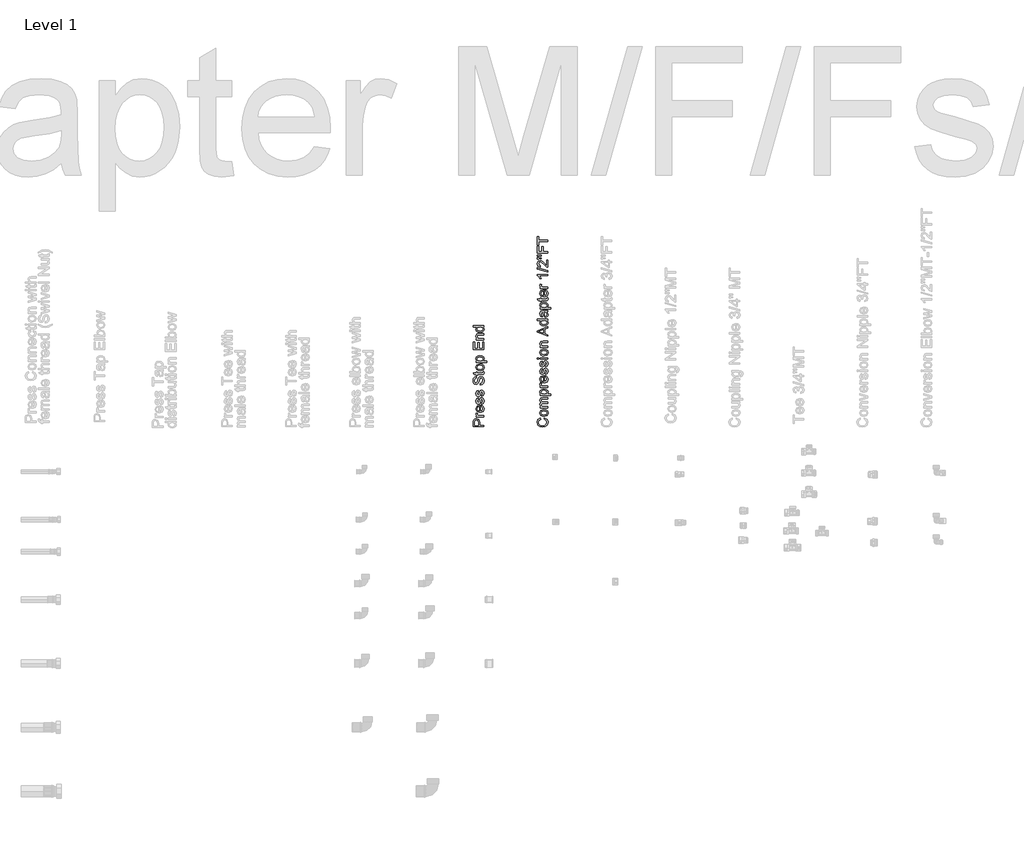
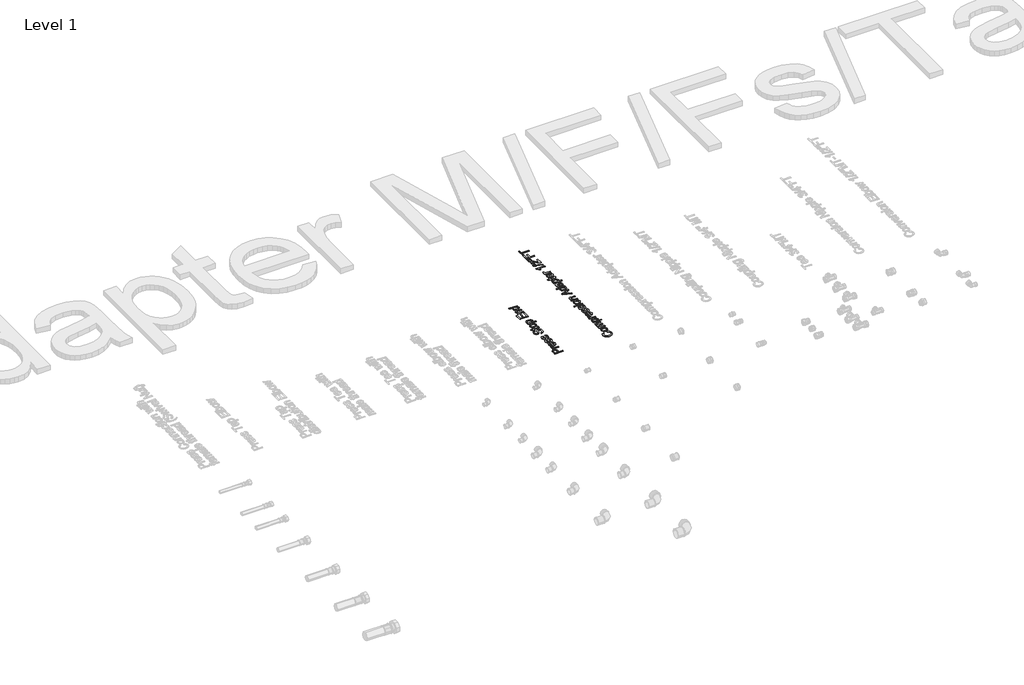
# One storey, part 53 of 57: 2 proxies.
"""IFC4 building model written with IfcOpenShell, lengths in millimetres."""

import ifcopenshell
import ifcopenshell.guid

model = None  # the IFC model being written
_history = None  # IfcOwnerHistory: only IFC2X3 demands one
_inside = {}  # id of a spatial element -> (the spatial element, [elements in it])
_under = {}  # id of a project, library or spatial element -> (it, [spatial elements below it])
_declared = {}  # id of a project -> (the project, [libraries it declares])
_typed = {}  # id of a type object -> (the type object, [elements of that type])
_made_of = {}  # id of a material, layer set ... -> (it, [elements and type objects made of it])


def new_model(schema):
    """Start an empty IFC model of exactly this schema.

    Asked for "IFC4X3", IfcOpenShell would pick the latest addendum, in which some entities
    have other attributes; the version numbers below select the first issue.
    IFC2X3 requires an IfcOwnerHistory on every rooted entity: one is made here for all.
    """
    global model, _history
    if schema == "IFC4X3":
        model = ifcopenshell.file(schema_version=(4, 3, 0, 0))
    else:
        model = ifcopenshell.file(schema=schema)
    _inside.clear()
    _under.clear()
    _declared.clear()
    _typed.clear()
    _made_of.clear()
    _history = None
    if model.schema == "IFC2X3":
        org = make("IfcOrganization", Name="unknown")
        user = make(
            "IfcPersonAndOrganization",
            ThePerson=make("IfcPerson", FamilyName="unknown"),
            TheOrganization=org,
        )
        app = make(
            "IfcApplication",
            ApplicationDeveloper=org,
            Version="unknown",
            ApplicationFullName="unknown",
            ApplicationIdentifier="unknown",
        )
        _history = make(
            "IfcOwnerHistory",
            OwningUser=user,
            OwningApplication=app,
            ChangeAction="ADDED",
            CreationDate=0,
        )
    return model


def make(cls, **values):
    """One entity of the class cls with the attributes given. An attribute that is None is left unset."""
    return model.create_entity(
        cls, **{name: value for name, value in values.items() if value is not None}
    )


def rooted(cls, **values):
    """An entity with a GlobalId (a new one), such as an element, a storey or a relation."""
    return make(cls, GlobalId=ifcopenshell.guid.new(), OwnerHistory=_history, **values)


def si_unit(unit_type, name, prefix=None):
    """IfcSIUnit, for example si_unit("LENGTHUNIT", "METRE", prefix="MILLI")."""
    return make("IfcSIUnit", UnitType=unit_type, Prefix=prefix, Name=name)


def assignment(units):
    """IfcUnitAssignment: the units of a project."""
    return None if units is None else make("IfcUnitAssignment", Units=units)


def point(xyz):
    """IfcCartesianPoint."""
    return None if xyz is None else make("IfcCartesianPoint", Coordinates=xyz)


def direction(xyz):
    """IfcDirection."""
    return None if xyz is None else make("IfcDirection", DirectionRatios=xyz)


def frame(location, z_axis=None, x_axis=None):
    """IfcAxis2Placement3D, a coordinate frame: its origin and axes. An axis left out is left unset."""
    return make(
        "IfcAxis2Placement3D",
        Location=point(location),
        Axis=direction(z_axis),
        RefDirection=direction(x_axis),
    )


def origin():
    """The frame at (0, 0, 0) with its axes left unset."""
    return frame((0.0, 0.0, 0.0))


def place(relative_to, where):
    """IfcLocalPlacement: puts the frame where relative to a parent placement (None: the world)."""
    return make(
        "IfcLocalPlacement", PlacementRelTo=relative_to, RelativePlacement=where
    )


def context(
    kind, dimensions, precision=None, world=None, true_north=None, identifier=None
):
    """IfcGeometricRepresentationContext, for example the 3D "Model" context."""
    return make(
        "IfcGeometricRepresentationContext",
        ContextIdentifier=identifier,
        ContextType=kind,
        CoordinateSpaceDimension=dimensions,
        Precision=precision,
        WorldCoordinateSystem=world,
        TrueNorth=true_north,
    )


def project(units=None, contexts=None):
    """IfcProject with its units and contexts."""
    return rooted(
        "IfcProject",
        Name="project",
        RepresentationContexts=contexts,
        UnitsInContext=assignment(units),
    )


def spatial(cls, under=None, at=None, **own):
    """A site, building, storey or space (cls), placed at a placement, below another one or the project."""
    s = rooted(cls, ObjectPlacement=at, **own)
    if under is not None:
        _under.setdefault(under.id(), (under, []))[1].append(s)
    return s


def polyline(points):
    """IfcPolyline through the points."""
    return make("IfcPolyline", Points=[point(p) for p in points])


def outline(outer, holes=None, kind="AREA"):
    """IfcArbitraryClosedProfileDef: a profile drawn as a closed curve; with holes, ...WithVoids."""
    if holes is None:
        return make("IfcArbitraryClosedProfileDef", ProfileType=kind, OuterCurve=outer)
    return make(
        "IfcArbitraryProfileDefWithVoids",
        ProfileType=kind,
        OuterCurve=outer,
        InnerCurves=holes,
    )


def extrude(swept, where, along, depth):
    """IfcExtrudedAreaSolid: the profile swept, set in the frame where, extruded along a direction by depth."""
    return make(
        "IfcExtrudedAreaSolid",
        SweptArea=swept,
        Position=where,
        ExtrudedDirection=direction(along),
        Depth=depth,
    )


def shape(context_of_items, identifier, shape_type, items):
    """IfcShapeRepresentation: the items that make up one representation, for example the "Body"."""
    return make(
        "IfcShapeRepresentation",
        ContextOfItems=context_of_items,
        RepresentationIdentifier=identifier,
        RepresentationType=shape_type,
        Items=items,
    )


def made_of(thing, what):
    """Note that an element or type object is made of a material, layer set ...; save() writes the relation."""
    if what is not None:
        _made_of.setdefault(what.id(), (what, []))[1].append(thing)
    return thing


def element(
    cls,
    number,
    at=None,
    inside=None,
    cuts=None,
    type_object=None,
    material=None,
    context=None,
    identifier="Body",
    shape_type=None,
    held_by="IfcProductDefinitionShape",
    body=None,
    shapes=None,
    **own,
):
    """One element of the class cls, such as IfcWall. Its Tag is "e" and its number.

    at: its placement. inside: the storey or other place that contains it. cuts: it is an
    opening in that element (IfcRelVoidsElement). A single representation is given by context,
    identifier, shape_type and body (its items); several are given by shapes. held_by: the class
    of the entity that holds the representations. save() writes the other relations.
    """
    e = rooted(cls, Tag="e%d" % number, ObjectPlacement=at, **own)
    if body is not None:
        shapes = [shape(context, identifier, shape_type, body)]
    if shapes is not None:
        e.Representation = make(held_by, Representations=shapes)
    if inside is not None:
        _inside.setdefault(inside.id(), (inside, []))[1].append(e)
    if cuts is not None:
        rooted(
            "IfcRelVoidsElement", RelatingBuildingElement=cuts, RelatedOpeningElement=e
        )
    if type_object is not None:
        _typed.setdefault(type_object.id(), (type_object, []))[1].append(e)
    return made_of(e, material)


def aggregate(whole, parts):
    """IfcRelAggregates: a whole, such as a stair, and the parts it consists of."""
    return rooted("IfcRelAggregates", RelatingObject=whole, RelatedObjects=parts)


def save(model, path):
    """Write the relations noted so far, then the file.

    IfcRelAggregates (storeys below a building ...), IfcRelContainedInSpatialStructure (elements
    in a storey), IfcRelDefinesByType, IfcRelAssociatesMaterial and IfcRelDeclares: one each for
    every whole, place, type object, material and project.
    """
    for whole, parts in _under.values():
        aggregate(whole, parts)
    for where, things in _inside.values():
        rooted(
            "IfcRelContainedInSpatialStructure",
            RelatedElements=things,
            RelatingStructure=where,
        )
    for kind, things in _typed.values():
        rooted("IfcRelDefinesByType", RelatedObjects=things, RelatingType=kind)
    for what, things in _made_of.values():
        rooted("IfcRelAssociatesMaterial", RelatedObjects=things, RelatingMaterial=what)
    for by, libraries in _declared.values():
        rooted("IfcRelDeclares", RelatingContext=by, RelatedDefinitions=libraries)
    model.write(path)


model = new_model("IFC4")

# Units and contexts
model_context = context("Model", 3, world=origin())
ifc_project = project(units=[si_unit("LENGTHUNIT", "METRE", prefix="MILLI")], contexts=[model_context])

# Site, building, storey
site = spatial("IfcSite", under=ifc_project)
building = spatial("IfcBuilding", under=site)
storey = spatial("IfcBuildingStorey", under=building, Name="Level 1", Elevation=27.3876384)

# Proxies
placement = place(None, origin())
element("IfcBuildingElementProxy", 1, Name="50mm Arial", ObjectType="50mm Arial", at=placement, inside=storey, context=model_context, shape_type="SweptSolid", body=[
    extrude(outline(polyline([(32119.1417262, 30406.8112945), (32068.9135711, 30406.8112945), (32068.9135711, 30425.4261235), (32069.3918177, 30432.9309162), (32071.7401311, 30439.0316259), (32076.5961734, 30442.9863574), (32083.4449099, 30444.4824108), (32094.2974288, 30440.4418402), (32098.7365382, 30425.8553191), (32098.7365382, 30413.0898139), (32119.1417262, 30413.0898139), (32119.1417262, 30406.8112945)]), holes=[polyline([(32092.4580188, 30413.0898139), (32092.4580188, 30426.2232011), (32090.152625, 30435.4693019), (32083.6656391, 30438.2038914), (32078.4662402, 30436.591342), (32075.6212861, 30432.3545677), (32075.1920905, 30426.0760483), (32075.1920905, 30413.0898139), (32092.4580188, 30413.0898139)])]), frame((0.0, 0.0, 27.3876384), z_axis=(0.0, 0.0, 1.0), x_axis=(1.0, 0.0, 0.0)), (0.0, 0.0, 1.0), 2.0),
    extrude(outline(polyline([(32119.1417262, 30452.33056), (32082.2554248, 30452.33056), (32082.2554248, 30457.8242645), (32087.7123411, 30457.8242645), (32082.6846205, 30461.7238137), (32081.4706099, 30465.6478883), (32083.4081217, 30471.9509331), (32089.0367162, 30469.8540057), (32087.7491293, 30465.4394218), (32088.9876653, 30461.8893606), (32092.4212306, 30459.6268863), (32099.754345, 30458.6090794), (32119.1417262, 30458.6090794), (32119.1417262, 30452.33056)])), frame((0.0, 0.0, 27.3876384), z_axis=(0.0, 0.0, 1.0), x_axis=(1.0, 0.0, 0.0)), (0.0, 0.0, 1.0), 2.0),
    extrude(outline(polyline([(32108.1543173, 30501.7003238), (32108.9391322, 30507.8562159), (32117.0447988, 30502.0988626), (32119.9265411, 30491.3751025), (32114.9540028, 30478.3398171), (32101.0051438, 30473.520563), (32086.5964323, 30478.388868), (32081.4706099, 30491.0194832), (32086.5841696, 30503.2883477), (32100.9683556, 30508.0524196), (32102.6606128, 30508.0156314), (32102.6606128, 30479.7990824), (32110.8153304, 30483.4104573), (32113.6480217, 30491.4977298), (32112.3359093, 30497.6536219), (32108.1543173, 30501.7003238)]), holes=[polyline([(32096.3820934, 30479.7990824), (32096.3820934, 30501.7739002), (32090.6921852, 30499.2600399), (32087.7491293, 30490.9949577), (32090.0974427, 30483.2633045), (32096.3820934, 30479.7990824)])]), frame((0.0, 0.0, 27.3876384), z_axis=(0.0, 0.0, 1.0), x_axis=(1.0, 0.0, 0.0)), (0.0, 0.0, 1.0), 2.0),
    extrude(outline(polyline([(32108.1543173, 30511.9764942), (32107.3695023, 30518.2550136), (32112.0293409, 30521.1612813), (32113.6480217, 30527.8199455), (32112.164231, 30534.2210922), (32108.6816148, 30536.3057568), (32105.8611862, 30534.2088294), (32104.0708271, 30527.7463691), (32100.9990124, 30518.2918018), (32097.412163, 30514.1653921), (32092.3476542, 30512.7613091), (32087.6694215, 30513.8894806), (32084.0948348, 30516.9674266), (32082.2370307, 30520.9589462), (32081.4706099, 30526.3606802), (32082.7030146, 30534.000363), (32086.038478, 30538.8564053), (32091.6732039, 30541.0146464), (32092.4580188, 30534.736127), (32088.9937967, 30532.3755508), (32087.7491293, 30526.8511895), (32088.9386144, 30520.8424503), (32091.7099921, 30519.0398285), (32093.5371393, 30519.7878552), (32094.9228282, 30522.1300373), (32096.2594661, 30527.5379026), (32099.2147848, 30536.7533466), (32102.5625109, 30541.0330404), (32108.0194272, 30542.5842762), (32114.0281664, 30540.7632603), (32118.3875681, 30535.5086792), (32119.9265411, 30527.7341063), (32116.9589597, 30516.7834856), (32108.1543173, 30511.9764942)])), frame((0.0, 0.0, 27.3876384), z_axis=(0.0, 0.0, 1.0), x_axis=(1.0, 0.0, 0.0)), (0.0, 0.0, 1.0), 2.0),
    extrude(outline(polyline([(32108.1543173, 30547.2931657), (32107.3695023, 30553.5716851), (32112.0293409, 30556.4779529), (32113.6480217, 30563.136617), (32112.164231, 30569.5377637), (32108.6816148, 30571.6224283), (32105.8611862, 30569.525501), (32104.0708271, 30563.0630406), (32100.9990124, 30553.6084733), (32097.412163, 30549.4820636), (32092.3476542, 30548.0779807), (32087.6694215, 30549.2061521), (32084.0948348, 30552.2840981), (32082.2370307, 30556.2756178), (32081.4706099, 30561.6773517), (32082.7030146, 30569.3170345), (32086.038478, 30574.1730768), (32091.6732039, 30576.3313179), (32092.4580188, 30570.0527985), (32088.9937967, 30567.6922224), (32087.7491293, 30562.1678611), (32088.9386144, 30556.1591218), (32091.7099921, 30554.3565), (32093.5371393, 30555.1045268), (32094.9228282, 30557.4467088), (32096.2594661, 30562.8545741), (32099.2147848, 30572.0700181), (32102.5625109, 30576.349712), (32108.0194272, 30577.9009477), (32114.0281664, 30576.0799319), (32118.3875681, 30570.8253507), (32119.9265411, 30563.0507779), (32116.9589597, 30552.1001571), (32108.1543173, 30547.2931657)])), frame((0.0, 0.0, 27.3876384), z_axis=(0.0, 0.0, 1.0), x_axis=(1.0, 0.0, 0.0)), (0.0, 0.0, 1.0), 2.0),
    extrude(outline(polyline([(32101.8757979, 30603.0150253), (32101.8757979, 30609.2935447), (32108.1604486, 30611.3168956), (32112.1335742, 30616.2587771), (32113.6480217, 30623.7880953), (32112.5014562, 30630.3486575), (32109.3499337, 30634.5854318), (32105.1376849, 30635.977252), (32101.2197416, 30634.9349197), (32098.3686562, 30630.6674886), (32095.9712918, 30621.525621), (32092.8749517, 30611.6847776), (32088.2028504, 30606.3443573), (32081.9611192, 30604.5846551), (32074.8548653, 30606.7612903), (32069.8394075, 30613.1195174), (32068.1287562, 30622.4269319), (32069.9191152, 30632.3597458), (32075.1798278, 30638.9816217), (32083.0402397, 30641.4709565), (32083.0402397, 30635.1924371), (32076.5900421, 30631.6362445), (32074.4072756, 30622.6721865), (32076.5655166, 30613.6836031), (32081.7771782, 30610.8631745), (32086.1304485, 30612.862), (32089.6375902, 30623.1136449), (32092.7891126, 30634.2236812), (32097.8781469, 30640.2998655), (32104.9782694, 30642.2557714), (32112.4891934, 30640.0055599), (32117.9706352, 30633.5308368), (32119.9265411, 30624.0333499), (32117.817351, 30612.8190804), (32111.4652552, 30605.7250893), (32101.8757979, 30603.0150253)])), frame((0.0, 0.0, 27.3876384), z_axis=(0.0, 0.0, 1.0), x_axis=(1.0, 0.0, 0.0)), (0.0, 0.0, 1.0), 2.0),
    extrude(outline(polyline([(32113.9055391, 30664.2305893), (32119.3256672, 30665.0154042), (32119.9265411, 30660.3187774), (32118.8842088, 30655.0580649), (32116.1496193, 30652.43384), (32109.0249713, 30651.6735505), (32088.5339442, 30651.6735505), (32088.5339442, 30646.964661), (32082.2554248, 30646.964661), (32082.2554248, 30651.6735505), (32073.2913668, 30651.6735505), (32069.6002842, 30657.9520699), (32082.2554248, 30657.9520699), (32082.2554248, 30664.2305893), (32088.5339442, 30664.2305893), (32088.5339442, 30657.9520699), (32108.8410303, 30657.9520699), (32112.0783919, 30658.2831637), (32113.6480217, 30661.4959998), (32113.9055391, 30664.2305893)])), frame((0.0, 0.0, 27.3876384), z_axis=(0.0, 0.0, 1.0), x_axis=(1.0, 0.0, 0.0)), (0.0, 0.0, 1.0), 2.0),
    extrude(outline(polyline([(32100.6985755, 30668.9394788), (32091.8050283, 30670.2975765), (32085.5541, 30674.3718696), (32081.4706099, 30685.4328549), (32086.4431482, 30697.2970493), (32100.1835407, 30701.9017056), (32111.3548906, 30699.8660919), (32117.6763296, 30693.9370604), (32119.9265411, 30685.4328549), (32114.9723969, 30673.4950842), (32100.6985755, 30668.9394788)]), holes=[polyline([(32100.6863128, 30675.2179982), (32110.4167915, 30678.124266), (32113.6480217, 30685.4328549), (32110.3983974, 30692.7169184), (32100.490109, 30695.6231862), (32090.9803594, 30692.6985243), (32087.7491293, 30685.4328549), (32090.9680967, 30678.124266), (32100.6863128, 30675.2179982)])]), frame((0.0, 0.0, 27.3876384), z_axis=(0.0, 0.0, 1.0), x_axis=(1.0, 0.0, 0.0)), (0.0, 0.0, 1.0), 2.0),
    extrude(outline(polyline([(32133.2683948, 30708.9650399), (32082.2554248, 30708.9650399), (32082.2554248, 30715.2435593), (32088.4113168, 30715.2435593), (32083.2057866, 30719.5845668), (32081.4706099, 30725.4461533), (32083.898631, 30733.4046671), (32090.7412362, 30738.604066), (32100.4165326, 30740.3576368), (32110.5884698, 30738.3772054), (32117.516914, 30732.6259835), (32119.9265411, 30724.6858638), (32118.3139917, 30719.2228162), (32114.2366329, 30715.2435593), (32133.2683948, 30715.2435593), (32133.2683948, 30708.9650399)]), holes=[polyline([(32100.9928811, 30715.2435593), (32110.557813, 30717.9597547), (32113.6480217, 30724.5509737), (32110.4474484, 30731.2770829), (32100.5268972, 30734.0791174), (32090.9374399, 30731.3445279), (32087.7491293, 30724.8084911), (32091.139775, 30718.1436957), (32100.9928811, 30715.2435593)])]), frame((0.0, 0.0, 27.3876384), z_axis=(0.0, 0.0, 1.0), x_axis=(1.0, 0.0, 0.0)), (0.0, 0.0, 1.0), 2.0),
    extrude(outline(polyline([(32119.1417262, 30767.8261591), (32068.9135711, 30767.8261591), (32068.9135711, 30803.9276456), (32075.1920905, 30803.9276456), (32075.1920905, 30774.1046785), (32090.103574, 30774.1046785), (32090.103574, 30802.3580157), (32096.3820934, 30802.3580157), (32096.3820934, 30774.1046785), (32112.8632068, 30774.1046785), (32112.8632068, 30804.7124605), (32119.1417262, 30804.7124605), (32119.1417262, 30767.8261591)])), frame((0.0, 0.0, 27.3876384), z_axis=(0.0, 0.0, 1.0), x_axis=(1.0, 0.0, 0.0)), (0.0, 0.0, 1.0), 2.0),
    extrude(outline(polyline([(32119.1417262, 30813.3454246), (32082.2554248, 30813.3454246), (32082.2554248, 30819.623944), (32087.4057727, 30819.623944), (32082.9544006, 30824.4248041), (32081.4706099, 30830.9792349), (32082.6662264, 30836.9082664), (32085.805486, 30840.9549684), (32090.4224051, 30842.8372979), (32096.492458, 30843.1683917), (32119.1417262, 30843.1683917), (32119.1417262, 30836.8898723), (32097.3385866, 30836.8898723), (32091.7835685, 30836.1663711), (32088.8466439, 30833.6095912), (32087.7491293, 30829.2992405), (32090.2139386, 30822.4872922), (32099.570404, 30819.623944), (32119.1417262, 30819.623944), (32119.1417262, 30813.3454246)])), frame((0.0, 0.0, 27.3876384), z_axis=(0.0, 0.0, 1.0), x_axis=(1.0, 0.0, 0.0)), (0.0, 0.0, 1.0), 2.0),
    extrude(outline(polyline([(32119.1417262, 30874.5609886), (32113.2188261, 30874.5609886), (32118.2496123, 30870.4069878), (32119.9265411, 30864.664963), (32117.4985199, 30856.8903901), (32110.7233599, 30851.3966857), (32100.7353637, 30849.4469111), (32090.7412362, 30851.2434015), (32083.8618428, 30856.6267414), (32081.4706099, 30864.6404375), (32083.1812611, 30870.4284476), (32087.6265019, 30874.5609886), (32068.9135711, 30874.5609886), (32068.9135711, 30880.839508), (32119.1417262, 30880.839508), (32119.1417262, 30874.5609886)]), holes=[polyline([(32100.7108382, 30855.7254305), (32110.4290543, 30858.5581219), (32113.6480217, 30865.2413114), (32110.5762071, 30871.8447932), (32101.1890848, 30874.5609886), (32090.9987535, 30871.7957423), (32087.7491293, 30864.983794), (32090.8699948, 30858.3741809), (32100.7108382, 30855.7254305)])]), frame((0.0, 0.0, 27.3876384), z_axis=(0.0, 0.0, 1.0), x_axis=(1.0, 0.0, 0.0)), (0.0, 0.0, 1.0), 2.0),
])
element("IfcBuildingElementProxy", 2, Name="50mm Arial", ObjectType="50mm Arial", at=placement, inside=storey, context=model_context, shape_type="SweptSolid", body=[
    extrude(outline(polyline([(32401.2871867, 30442.127966), (32402.9058675, 30448.4064854), (32415.5671395, 30440.9630064), (32419.9265411, 30427.8173564), (32416.6278659, 30414.7514142), (32407.0751967, 30407.087206), (32393.6475039, 30404.4568497), (32379.9990819, 30407.4305625), (32371.1515199, 30415.8857171), (32368.1287562, 30427.9522465), (32372.0405681, 30440.5276794), (32383.0525025, 30447.6216705), (32384.5485559, 30441.3431511), (32376.8291654, 30436.1928032), (32374.4072756, 30427.7069918), (32377.0928141, 30417.8845426), (32384.3033012, 30412.3356558), (32393.6352412, 30410.7353691), (32404.4509718, 30412.6299614), (32411.361022, 30418.5283361), (32413.6480217, 30427.191957), (32410.5332875, 30436.7998085), (32401.2871867, 30442.127966)])), frame((0.0, 0.0, 27.3876384), z_axis=(0.0, 0.0, 1.0), x_axis=(1.0, 0.0, 0.0)), (0.0, 0.0, 1.0), 2.0),
    extrude(outline(polyline([(32400.6985755, 30454.6850048), (32391.8050283, 30456.0431025), (32385.5541, 30460.1173956), (32381.4706099, 30471.1783809), (32386.4431482, 30483.0425753), (32400.1835407, 30487.6472316), (32411.3548906, 30485.6116179), (32417.6763296, 30479.6825864), (32419.9265411, 30471.1783809), (32414.9723969, 30459.2406102), (32400.6985755, 30454.6850048)]), holes=[polyline([(32400.6863128, 30460.9635242), (32410.4167915, 30463.869792), (32413.6480217, 30471.1783809), (32410.3983974, 30478.4624444), (32400.490109, 30481.3687122), (32390.9803594, 30478.4440503), (32387.7491293, 30471.1783809), (32390.9680967, 30463.869792), (32400.6863128, 30460.9635242)])]), frame((0.0, 0.0, 27.3876384), z_axis=(0.0, 0.0, 1.0), x_axis=(1.0, 0.0, 0.0)), (0.0, 0.0, 1.0), 2.0),
    extrude(outline(polyline([(32419.1417262, 30494.7105659), (32382.2554248, 30494.7105659), (32382.2554248, 30500.9890853), (32388.3254777, 30500.9890853), (32383.3529394, 30505.3055674), (32381.4706099, 30511.4491967), (32383.3897276, 30517.7399788), (32388.7669361, 30521.1980695), (32383.2946914, 30526.0970314), (32381.4706099, 30532.2835803), (32384.5056363, 30540.4934802), (32393.8559704, 30543.3690911), (32419.1417262, 30543.3690911), (32419.1417262, 30537.0905717), (32396.5537717, 30537.0905717), (32391.3114532, 30536.5080919), (32388.7301479, 30534.3989018), (32387.7491293, 30530.8120524), (32390.2629896, 30524.6377662), (32398.3196053, 30522.1790882), (32419.1417262, 30522.1790882), (32419.1417262, 30515.9005688), (32395.8547959, 30515.9005688), (32389.7724802, 30514.4474349), (32387.7491293, 30509.6833631), (32389.0980299, 30505.0357872), (32393.04663, 30501.9455785), (32400.53916, 30500.9890853), (32419.1417262, 30500.9890853), (32419.1417262, 30494.7105659)])), frame((0.0, 0.0, 27.3876384), z_axis=(0.0, 0.0, 1.0), x_axis=(1.0, 0.0, 0.0)), (0.0, 0.0, 1.0), 2.0),
    extrude(outline(polyline([(32433.2683948, 30552.7868702), (32382.2554248, 30552.7868702), (32382.2554248, 30559.0653896), (32388.4113168, 30559.0653896), (32383.2057866, 30563.4063971), (32381.4706099, 30569.2679836), (32383.898631, 30577.2264974), (32390.7412362, 30582.4258963), (32400.4165326, 30584.1794671), (32410.5884698, 30582.1990357), (32417.516914, 30576.4478139), (32419.9265411, 30568.5076941), (32418.3139917, 30563.0446465), (32414.2366329, 30559.0653896), (32433.2683948, 30559.0653896), (32433.2683948, 30552.7868702)]), holes=[polyline([(32400.9928811, 30559.0653896), (32410.557813, 30561.781585), (32413.6480217, 30568.3728041), (32410.4474484, 30575.0989132), (32400.5268972, 30577.9009477), (32390.9374399, 30575.1663582), (32387.7491293, 30568.6303215), (32391.139775, 30561.965526), (32400.9928811, 30559.0653896)])]), frame((0.0, 0.0, 27.3876384), z_axis=(0.0, 0.0, 1.0), x_axis=(1.0, 0.0, 0.0)), (0.0, 0.0, 1.0), 2.0),
    extrude(outline(polyline([(32419.1417262, 30591.2428014), (32382.2554248, 30591.2428014), (32382.2554248, 30596.7365059), (32387.7123411, 30596.7365059), (32382.6846205, 30600.636055), (32381.4706099, 30604.5601297), (32383.4081217, 30610.8631745), (32389.0367162, 30608.7662471), (32387.7491293, 30604.3516632), (32388.9876653, 30600.8016019), (32392.4212306, 30598.5391277), (32399.754345, 30597.5213208), (32419.1417262, 30597.5213208), (32419.1417262, 30591.2428014)])), frame((0.0, 0.0, 27.3876384), z_axis=(0.0, 0.0, 1.0), x_axis=(1.0, 0.0, 0.0)), (0.0, 0.0, 1.0), 2.0),
    extrude(outline(polyline([(32408.1543173, 30640.6125652), (32408.9391322, 30646.7684572), (32417.0447988, 30641.011104), (32419.9265411, 30630.2873438), (32414.9540028, 30617.2520585), (32401.0051438, 30612.4328043), (32386.5964323, 30617.3011094), (32381.4706099, 30629.9317246), (32386.5841696, 30642.2005891), (32400.9683556, 30646.964661), (32402.6606128, 30646.9278728), (32402.6606128, 30618.7113237), (32410.8153304, 30622.3226987), (32413.6480217, 30630.4099712), (32412.3359093, 30636.5658632), (32408.1543173, 30640.6125652)]), holes=[polyline([(32396.3820934, 30618.7113237), (32396.3820934, 30640.6861416), (32390.6921852, 30638.1722813), (32387.7491293, 30629.9071991), (32390.0974427, 30622.1755459), (32396.3820934, 30618.7113237)])]), frame((0.0, 0.0, 27.3876384), z_axis=(0.0, 0.0, 1.0), x_axis=(1.0, 0.0, 0.0)), (0.0, 0.0, 1.0), 2.0),
    extrude(outline(polyline([(32408.1543173, 30650.8887356), (32407.3695023, 30657.167255), (32412.0293409, 30660.0735227), (32413.6480217, 30666.7321868), (32412.164231, 30673.1333336), (32408.6816148, 30675.2179982), (32405.8611862, 30673.1210708), (32404.0708271, 30666.6586104), (32400.9990124, 30657.2040432), (32397.412163, 30653.0776334), (32392.3476542, 30651.6735505), (32387.6694215, 30652.801722), (32384.0948348, 30655.879668), (32382.2370307, 30659.8711876), (32381.4706099, 30665.2729216), (32382.7030146, 30672.9126044), (32386.038478, 30677.7686467), (32391.6732039, 30679.9268877), (32392.4580188, 30673.6483683), (32388.9937967, 30671.2877922), (32387.7491293, 30665.7634309), (32388.9386144, 30659.7546917), (32391.7099921, 30657.9520699), (32393.5371393, 30658.7000966), (32394.9228282, 30661.0422786), (32396.2594661, 30666.450144), (32399.2147848, 30675.665588), (32402.5625109, 30679.9452818), (32408.0194272, 30681.4965176), (32414.0281664, 30679.6755017), (32418.3875681, 30674.4209205), (32419.9265411, 30666.6463477), (32416.9589597, 30655.695727), (32408.1543173, 30650.8887356)])), frame((0.0, 0.0, 27.3876384), z_axis=(0.0, 0.0, 1.0), x_axis=(1.0, 0.0, 0.0)), (0.0, 0.0, 1.0), 2.0),
    extrude(outline(polyline([(32408.1543173, 30686.2054071), (32407.3695023, 30692.4839265), (32412.0293409, 30695.3901943), (32413.6480217, 30702.0488584), (32412.164231, 30708.4500051), (32408.6816148, 30710.5346697), (32405.8611862, 30708.4377424), (32404.0708271, 30701.975282), (32400.9990124, 30692.5207147), (32397.412163, 30688.394305), (32392.3476542, 30686.990222), (32387.6694215, 30688.1183935), (32384.0948348, 30691.1963395), (32382.2370307, 30695.1878592), (32381.4706099, 30700.5895931), (32382.7030146, 30708.2292759), (32386.038478, 30713.0853182), (32391.6732039, 30715.2435593), (32392.4580188, 30708.9650399), (32388.9937967, 30706.6044637), (32387.7491293, 30701.0801025), (32388.9386144, 30695.0713632), (32391.7099921, 30693.2687414), (32393.5371393, 30694.0167681), (32394.9228282, 30696.3589502), (32396.2594661, 30701.7668155), (32399.2147848, 30710.9822595), (32402.5625109, 30715.2619534), (32408.0194272, 30716.8131891), (32414.0281664, 30714.9921732), (32418.3875681, 30709.7375921), (32419.9265411, 30701.9630192), (32416.9589597, 30691.0123985), (32408.1543173, 30686.2054071)])), frame((0.0, 0.0, 27.3876384), z_axis=(0.0, 0.0, 1.0), x_axis=(1.0, 0.0, 0.0)), (0.0, 0.0, 1.0), 2.0),
    extrude(outline(polyline([(32375.1920905, 30723.8765234), (32368.9135711, 30723.8765234), (32368.9135711, 30730.1550428), (32375.1920905, 30730.1550428), (32375.1920905, 30723.8765234)])), frame((0.0, 0.0, 27.3876384), z_axis=(0.0, 0.0, 1.0), x_axis=(1.0, 0.0, 0.0)), (0.0, 0.0, 1.0), 2.0),
    extrude(outline(polyline([(32419.1417262, 30723.8765234), (32382.2554248, 30723.8765234), (32382.2554248, 30730.1550428), (32419.1417262, 30730.1550428), (32419.1417262, 30723.8765234)])), frame((0.0, 0.0, 27.3876384), z_axis=(0.0, 0.0, 1.0), x_axis=(1.0, 0.0, 0.0)), (0.0, 0.0, 1.0), 2.0),
    extrude(outline(polyline([(32400.6985755, 30738.003192), (32391.8050283, 30739.3612897), (32385.5541, 30743.4355828), (32381.4706099, 30754.4965682), (32386.4431482, 30766.3607625), (32400.1835407, 30770.9654188), (32411.3548906, 30768.9298051), (32417.6763296, 30763.0007736), (32419.9265411, 30754.4965682), (32414.9723969, 30742.5587974), (32400.6985755, 30738.003192)]), holes=[polyline([(32400.6863128, 30744.2817114), (32410.4167915, 30747.1879792), (32413.6480217, 30754.4965682), (32410.3983974, 30761.7806317), (32400.490109, 30764.6868994), (32390.9803594, 30761.7622376), (32387.7491293, 30754.4965682), (32390.9680967, 30747.1879792), (32400.6863128, 30744.2817114)])]), frame((0.0, 0.0, 27.3876384), z_axis=(0.0, 0.0, 1.0), x_axis=(1.0, 0.0, 0.0)), (0.0, 0.0, 1.0), 2.0),
    extrude(outline(polyline([(32419.1417262, 30778.0287531), (32382.2554248, 30778.0287531), (32382.2554248, 30784.3072725), (32387.4057727, 30784.3072725), (32382.9544006, 30789.1081325), (32381.4706099, 30795.6625634), (32382.6662264, 30801.5915949), (32385.805486, 30805.6382968), (32390.4224051, 30807.5206264), (32396.492458, 30807.8517202), (32419.1417262, 30807.8517202), (32419.1417262, 30801.5732008), (32397.3385866, 30801.5732008), (32391.7835685, 30800.8496995), (32388.8466439, 30798.2929197), (32387.7491293, 30793.982569), (32390.2139386, 30787.1706207), (32399.570404, 30784.3072725), (32419.1417262, 30784.3072725), (32419.1417262, 30778.0287531)])), frame((0.0, 0.0, 27.3876384), z_axis=(0.0, 0.0, 1.0), x_axis=(1.0, 0.0, 0.0)), (0.0, 0.0, 1.0), 2.0),
    extrude(outline(polyline([(32419.1417262, 30831.0405486), (32368.9135711, 30851.0901174), (32368.9135711, 30856.436669), (32419.1417262, 30876.4862378), (32419.1417262, 30869.8520991), (32403.4454277, 30864.1008772), (32403.4454277, 30843.4136464), (32419.1417262, 30837.6746873), (32419.1417262, 30831.0405486)]), holes=[polyline([(32397.1669083, 30845.7190402), (32397.1669083, 30861.8077461), (32384.818336, 30857.2827976), (32375.1920905, 30853.7633932), (32383.7392155, 30850.6363962), (32397.1669083, 30845.7190402)])]), frame((0.0, 0.0, 27.3876384), z_axis=(0.0, 0.0, 1.0), x_axis=(1.0, 0.0, 0.0)), (0.0, 0.0, 1.0), 2.0),
    extrude(outline(polyline([(32419.1417262, 30905.1687706), (32413.2188261, 30905.1687706), (32418.2496123, 30901.0147698), (32419.9265411, 30895.272745), (32417.4985199, 30887.4981721), (32410.7233599, 30882.0044677), (32400.7353637, 30880.0546931), (32390.7412362, 30881.8511835), (32383.8618428, 30887.2345234), (32381.4706099, 30895.2482195), (32383.1812611, 30901.0362296), (32387.6265019, 30905.1687706), (32368.9135711, 30905.1687706), (32368.9135711, 30911.44729), (32419.1417262, 30911.44729), (32419.1417262, 30905.1687706)]), holes=[polyline([(32400.7108382, 30886.3332125), (32410.4290543, 30889.1659039), (32413.6480217, 30895.8490934), (32410.5762071, 30902.4525752), (32401.1890848, 30905.1687706), (32390.9987535, 30902.4035243), (32387.7491293, 30895.591576), (32390.8699948, 30888.9819629), (32400.7108382, 30886.3332125)])]), frame((0.0, 0.0, 27.3876384), z_axis=(0.0, 0.0, 1.0), x_axis=(1.0, 0.0, 0.0)), (0.0, 0.0, 1.0), 2.0),
    extrude(outline(polyline([(32414.4328366, 30944.4095168), (32418.6880051, 30938.3210698), (32419.9265411, 30931.5949606), (32416.9466969, 30922.4776185), (32409.3315396, 30919.2954393), (32404.3651327, 30920.4971871), (32400.7598892, 30923.6548409), (32398.69975, 30928.0510307), (32397.7555195, 30933.4834215), (32395.5972785, 30944.3727286), (32389.5640138, 30942.6804714), (32387.7491293, 30935.7397644), (32388.9570085, 30929.3876687), (32393.2428337, 30926.3587736), (32392.4580188, 30920.0802542), (32386.3266522, 30922.7964496), (32382.7336714, 30928.2656286), (32381.4706099, 30936.5491048), (32382.5865186, 30944.1581308), (32385.3885531, 30948.4562187), (32389.6498529, 30950.3814678), (32395.1435574, 30950.6880362), (32402.9549184, 30950.6880362), (32413.8626195, 30951.0068672), (32419.1417262, 30952.257666), (32419.1417262, 30945.9791466), (32414.4328366, 30944.4095168)]), holes=[polyline([(32401.8757979, 30944.4095168), (32403.801047, 30934.2804992), (32404.8188538, 30928.8787652), (32406.4743228, 30926.43235), (32408.8900812, 30925.5739586), (32412.2868583, 30927.4440255), (32413.6480217, 30932.9315985), (32412.1458369, 30939.2836943), (32408.5099365, 30943.3794472), (32403.6538942, 30944.3727286), (32401.8757979, 30944.4095168)])]), frame((0.0, 0.0, 27.3876384), z_axis=(0.0, 0.0, 1.0), x_axis=(1.0, 0.0, 0.0)), (0.0, 0.0, 1.0), 2.0),
    extrude(outline(polyline([(32433.2683948, 30959.3210003), (32382.2554248, 30959.3210003), (32382.2554248, 30965.5995197), (32388.4113168, 30965.5995197), (32383.2057866, 30969.9405273), (32381.4706099, 30975.8021137), (32383.898631, 30983.7606275), (32390.7412362, 30988.9600264), (32400.4165326, 30990.7135973), (32410.5884698, 30988.7331658), (32417.516914, 30982.981944), (32419.9265411, 30975.0418243), (32418.3139917, 30969.5787766), (32414.2366329, 30965.5995197), (32433.2683948, 30965.5995197), (32433.2683948, 30959.3210003)]), holes=[polyline([(32400.9928811, 30965.5995197), (32410.557813, 30968.3157151), (32413.6480217, 30974.9069342), (32410.4474484, 30981.6330433), (32400.5268972, 30984.4350779), (32390.9374399, 30981.7004884), (32387.7491293, 30975.1644516), (32391.139775, 30968.4996561), (32400.9928811, 30965.5995197)])]), frame((0.0, 0.0, 27.3876384), z_axis=(0.0, 0.0, 1.0), x_axis=(1.0, 0.0, 0.0)), (0.0, 0.0, 1.0), 2.0),
    extrude(outline(polyline([(32413.9055391, 31011.1187853), (32419.3256672, 31011.9036002), (32419.9265411, 31007.2069734), (32418.8842088, 31001.9462608), (32416.1496193, 30999.3220359), (32409.0249713, 30998.5617465), (32388.5339442, 30998.5617465), (32388.5339442, 30993.8528569), (32382.2554248, 30993.8528569), (32382.2554248, 30998.5617465), (32373.2913668, 30998.5617465), (32369.6002842, 31004.8402659), (32382.2554248, 31004.8402659), (32382.2554248, 31011.1187853), (32388.5339442, 31011.1187853), (32388.5339442, 31004.8402659), (32408.8410303, 31004.8402659), (32412.0783919, 31005.1713597), (32413.6480217, 31008.3841958), (32413.9055391, 31011.1187853)])), frame((0.0, 0.0, 27.3876384), z_axis=(0.0, 0.0, 1.0), x_axis=(1.0, 0.0, 0.0)), (0.0, 0.0, 1.0), 2.0),
    extrude(outline(polyline([(32408.1543173, 31043.2226207), (32408.9391322, 31049.3785128), (32417.0447988, 31043.6211595), (32419.9265411, 31032.8973994), (32414.9540028, 31019.862114), (32401.0051438, 31015.0428599), (32386.5964323, 31019.9111649), (32381.4706099, 31032.5417801), (32386.5841696, 31044.8106446), (32400.9683556, 31049.5747165), (32402.6606128, 31049.5379283), (32402.6606128, 31021.3213793), (32410.8153304, 31024.9327542), (32413.6480217, 31033.0200267), (32412.3359093, 31039.1759188), (32408.1543173, 31043.2226207)]), holes=[polyline([(32396.3820934, 31021.3213793), (32396.3820934, 31043.2961971), (32390.6921852, 31040.7823368), (32387.7491293, 31032.5172546), (32390.0974427, 31024.7856014), (32396.3820934, 31021.3213793)])]), frame((0.0, 0.0, 27.3876384), z_axis=(0.0, 0.0, 1.0), x_axis=(1.0, 0.0, 0.0)), (0.0, 0.0, 1.0), 2.0),
    extrude(outline(polyline([(32419.1417262, 31055.8532359), (32382.2554248, 31055.8532359), (32382.2554248, 31061.3469403), (32387.7123411, 31061.3469403), (32382.6846205, 31065.2464895), (32381.4706099, 31069.1705641), (32383.4081217, 31075.4736089), (32389.0367162, 31073.3766816), (32387.7491293, 31068.9620976), (32388.9876653, 31065.4120364), (32392.4212306, 31063.1495621), (32399.754345, 31062.1317553), (32419.1417262, 31062.1317553), (32419.1417262, 31055.8532359)])), frame((0.0, 0.0, 27.3876384), z_axis=(0.0, 0.0, 1.0), x_axis=(1.0, 0.0, 0.0)), (0.0, 0.0, 1.0), 2.0),
    extrude(outline(polyline([(32419.1417262, 31120.9928745), (32419.1417262, 31114.7143551), (32379.9990819, 31114.7143551), (32384.2358562, 31108.7669295), (32387.4057727, 31102.1573163), (32381.4706099, 31102.1573163), (32375.5967607, 31111.3604976), (32368.9135711, 31116.9461725), (32368.9135711, 31120.9928745), (32419.1417262, 31120.9928745)])), frame((0.0, 0.0, 27.3876384), z_axis=(0.0, 0.0, 1.0), x_axis=(1.0, 0.0, 0.0)), (0.0, 0.0, 1.0), 2.0),
    extrude(outline(polyline([(32419.1417262, 31132.7650983), (32368.9135711, 31146.8917669), (32368.9135711, 31152.5571497), (32419.1417262, 31138.4304811), (32419.1417262, 31132.7650983)])), frame((0.0, 0.0, 27.3876384), z_axis=(0.0, 0.0, 1.0), x_axis=(1.0, 0.0, 0.0)), (0.0, 0.0, 1.0), 2.0),
    extrude(outline(polyline([(32412.8632068, 31187.7021429), (32419.1417262, 31187.7021429), (32419.1417262, 31154.7399162), (32414.8129814, 31155.4143665), (32408.1481859, 31159.2280765), (32400.8702538, 31167.0884885), (32390.4101424, 31177.9287446), (32383.2977571, 31180.6388086), (32377.5404039, 31178.0820288), (32375.1920905, 31171.4049706), (32377.4852216, 31164.4458695), (32383.8250546, 31161.8032505), (32383.0402397, 31155.5247311), (32372.5310774, 31160.3378539), (32368.9135711, 31171.5398606), (32372.9357476, 31182.7786556), (32382.9176124, 31186.917328), (32388.8711693, 31185.8014193), (32395.0270614, 31182.0919425), (32403.6293687, 31173.0972277), (32409.6687648, 31165.8744779), (32412.8632068, 31163.0417865), (32412.8632068, 31187.7021429)])), frame((0.0, 0.0, 27.3876384), z_axis=(0.0, 0.0, 1.0), x_axis=(1.0, 0.0, 0.0)), (0.0, 0.0, 1.0), 2.0),
    extrude(outline(polyline([(32386.9643143, 31195.513504), (32377.2644924, 31193.9806623), (32368.9135711, 31193.9806623), (32368.9135711, 31200.2591817), (32377.2644924, 31200.2591817), (32386.9643143, 31198.8857556), (32386.9643143, 31195.513504)])), frame((0.0, 0.0, 27.3876384), z_axis=(0.0, 0.0, 1.0), x_axis=(1.0, 0.0, 0.0)), (0.0, 0.0, 1.0), 2.0),
    extrude(outline(polyline([(32386.9643143, 31208.0337545), (32377.2644924, 31206.5377011), (32368.9135711, 31206.5377011), (32368.9135711, 31212.8162205), (32377.2644924, 31212.8162205), (32386.9643143, 31211.3446925), (32386.9643143, 31208.0337545)])), frame((0.0, 0.0, 27.3876384), z_axis=(0.0, 0.0, 1.0), x_axis=(1.0, 0.0, 0.0)), (0.0, 0.0, 1.0), 2.0),
    extrude(outline(polyline([(32419.1417262, 31221.4491846), (32368.9135711, 31221.4491846), (32368.9135711, 31255.1962263), (32375.1920905, 31255.1962263), (32375.1920905, 31227.727704), (32390.103574, 31227.727704), (32390.103574, 31251.2721517), (32396.3820934, 31251.2721517), (32396.3820934, 31227.727704), (32419.1417262, 31227.727704), (32419.1417262, 31221.4491846)])), frame((0.0, 0.0, 27.3876384), z_axis=(0.0, 0.0, 1.0), x_axis=(1.0, 0.0, 0.0)), (0.0, 0.0, 1.0), 2.0),
    extrude(outline(polyline([(32419.1417262, 31276.3862292), (32375.1920905, 31276.3862292), (32375.1920905, 31259.9051159), (32368.9135711, 31259.9051159), (32368.9135711, 31299.145862), (32375.1920905, 31299.145862), (32375.1920905, 31282.6647486), (32419.1417262, 31282.6647486), (32419.1417262, 31276.3862292)])), frame((0.0, 0.0, 27.3876384), z_axis=(0.0, 0.0, 1.0), x_axis=(1.0, 0.0, 0.0)), (0.0, 0.0, 1.0), 2.0),
])

save(model, "model.ifc")
